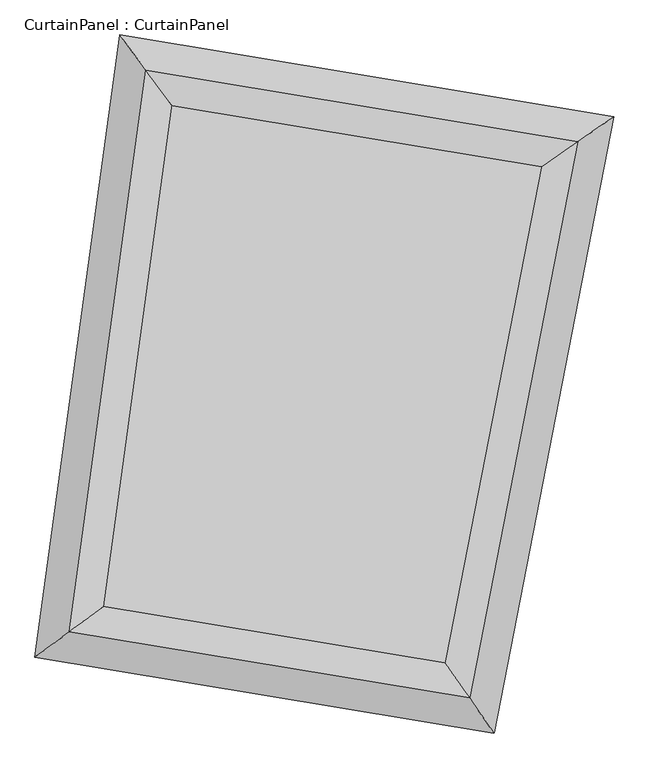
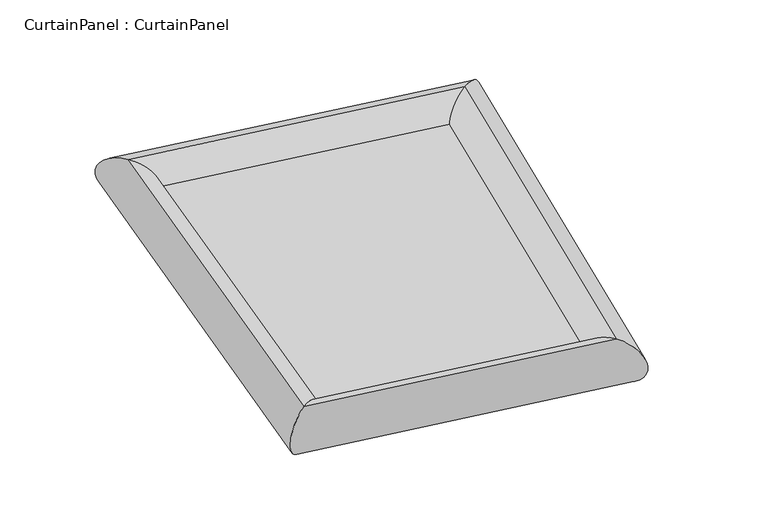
"""IFC4 building model written with IfcOpenShell, lengths in millimetres: plate geometry, CurtainPanel : CurtainPanel."""

from ifc_helpers import new_model, si_unit, frame, origin, origin_with_axes, place, context, project, spatial, polyline, ellipse_curve, outline, extrude, source, transform, mapped, element, save
from ifc_brep_helpers import cylinder_surface, advanced_brep


def curtainpanel_curtainpanel_41c1c35c(model_context):
    return source(origin(), model_context, "Body", "SolidModel", [
        extrude(outline(polyline([(2807.8302982, 2807.8302982), (3355.6981181, 6828.6574333), (6449.5990461, 6317.4268422), (5674.8725376, 2334.0854263), (2807.8302982, 2807.8302982)])), origin_with_axes(), (0.0, 0.0, 1.0), 20.0),
        advanced_brep(
        [(2807.8302982, 2807.8302982, -220.0), (2807.8302982, 2807.8302982, 220.0), (5674.8725376, 2334.0854263, 220.0), (5674.8725376, 2334.0854263, -220.0), (6449.5990461, 6317.4268422, 220.0), (6449.5990461, 6317.4268422, -220.0), (3355.6981181, 6828.6574333, 220.0), (3355.6981181, 6828.6574333, -220.0)],
        [
            (0, 1, ellipse_curve(frame((2807.8302982, 2807.8302982, 0.0), z_axis=(0.5938271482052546, -0.8045926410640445, 0.0), x_axis=(-0.8045926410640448, -0.5938271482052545, 0.0)), 306.8111753, 220.0)),
            (1, 2),
            (2, 3, ellipse_curve(frame((5674.8725376, 2334.0854263, 0.0), z_axis=(-0.8210935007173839, -0.5707937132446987, 0.0), x_axis=(-0.570793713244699, 0.8210935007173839, 0.0)), 306.8111753, 220.0)),
            (3, 0),
            (1, 0, ellipse_curve(frame((2807.8302982, 2807.8302982, 0.0), z_axis=(0.5938271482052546, -0.8045926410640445, 0.0), x_axis=(-0.8045926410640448, -0.5938271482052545, 0.0)), 306.8111753, 220.0)),
            (3, 2, ellipse_curve(frame((5674.8725376, 2334.0854263, 0.0), z_axis=(-0.8210935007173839, -0.5707937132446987, 0.0), x_axis=(-0.570793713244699, 0.8210935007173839, 0.0)), 306.8111753, 220.0)),
            (2, 4),
            (4, 5, ellipse_curve(frame((6449.5990461, 6317.4268422, 0.0), z_axis=(0.570793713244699, -0.8210935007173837, 0.0), x_axis=(-0.8210935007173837, -0.5707937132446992, 0.0)), 315.6301979, 220.0)),
            (5, 3),
            (5, 4, ellipse_curve(frame((6449.5990461, 6317.4268422, 0.0), z_axis=(0.570793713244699, -0.8210935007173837, 0.0), x_axis=(-0.8210935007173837, -0.5707937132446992, 0.0)), 315.6301979, 220.0)),
            (4, 6),
            (6, 7, ellipse_curve(frame((3355.6981181, 6828.6574333, 0.0), z_axis=(0.8045926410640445, 0.593827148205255, 0.0), x_axis=(0.593827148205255, -0.8045926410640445, 0.0)), 315.6301979, 220.0)),
            (7, 5),
            (7, 6, ellipse_curve(frame((3355.6981181, 6828.6574333, 0.0), z_axis=(0.8045926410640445, 0.593827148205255, 0.0), x_axis=(0.593827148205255, -0.8045926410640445, 0.0)), 315.6301979, 220.0)),
            (6, 1),
            (0, 7),
        ],
        [
            cylinder_surface(frame((2807.8302982, 2807.8302982, 0.0), z_axis=(-0.986621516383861, 0.1630275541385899, 0.0), x_axis=(0.1630275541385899, 0.986621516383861, 0.0)), 220.0),
            cylinder_surface(frame((5674.8725376, 2334.0854263, 0.0), z_axis=(-0.19091427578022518, -0.9816067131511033, 0.0), x_axis=(-0.9816067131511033, 0.19091427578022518, 0.0)), 220.0),
            cylinder_surface(frame((6449.5990461, 6317.4268422, 0.0), z_axis=(0.9866215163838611, -0.1630275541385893, 0.0), x_axis=(-0.1630275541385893, -0.9866215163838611, 0.0)), 220.0),
            cylinder_surface(frame((3355.6981181, 6828.6574333, 0.0), z_axis=(0.1350099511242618, 0.9908442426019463, 0.0), x_axis=(0.9908442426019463, -0.1350099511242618, 0.0)), 220.0),
        ],
        [
            (0, [[1, 2, 3, 4]]),
            (0, [[5, -4, 6, -2]]),
            (1, [[-3, 7, 8, 9]]),
            (1, [[-6, -9, 10, -7]]),
            (2, [[-8, 11, 12, 13]]),
            (2, [[-10, -13, 14, -11]]),
            (3, [[-12, 15, -1, 16]]),
            (3, [[-14, -16, -5, -15]]),
        ],
    ),
    ])


if __name__ == "__main__":
    model = new_model("IFC4")
    model_context = context("Model", 3, world=origin())
    ifc_project = project(units=[si_unit("LENGTHUNIT", "METRE", prefix="MILLI")], contexts=[model_context])
    site = spatial("IfcSite", under=ifc_project)
    building = spatial("IfcBuilding", under=site)
    placement = place(None, origin())
    curtainpanel_curtainpanel_shape = curtainpanel_curtainpanel_41c1c35c(model_context)
    element("IfcPlate", 1, ObjectType="CurtainPanel : CurtainPanel", at=placement, inside=building, context=model_context, shape_type="MappedRepresentation", body=[
        mapped(curtainpanel_curtainpanel_shape, transform((0.0, 0.0, 0.0), x_axis=(1.0, 0.0, 0.0), y_axis=(0.0, 1.0, 0.0), z_axis=(0.0, 0.0, 1.0))),
    ])
    save(model, "model.ifc")
